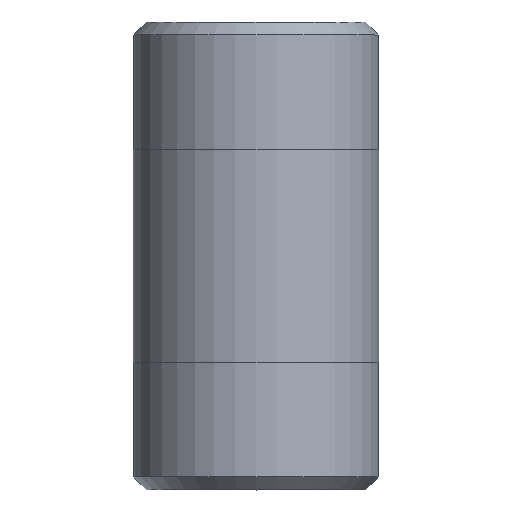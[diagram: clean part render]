
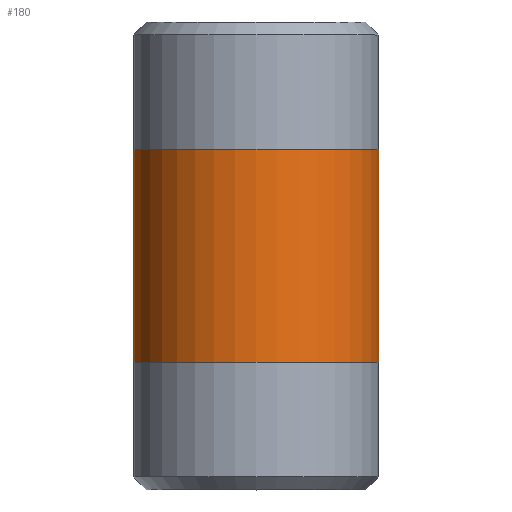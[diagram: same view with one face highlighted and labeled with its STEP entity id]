
A CAD part, top view. The second image highlights one B-rep face of the part: STEP entity #180.
In plain terms, the highlighted cylindrical face has radius 13.335 mm (diameter 26.67 mm), a full revolution.
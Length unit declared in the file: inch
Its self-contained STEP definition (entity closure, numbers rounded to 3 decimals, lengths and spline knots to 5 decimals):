
#25=CYLINDRICAL_SURFACE('',#220,0.525);
#34=FACE_OUTER_BOUND('',#47,.T.);
#47=EDGE_LOOP('',(#155,#156,#157,#158,#159,#160));
#55=LINE('',#338,#61);
#61=VECTOR('',#283,0.525);
#77=CIRCLE('',#218,0.525);
#78=CIRCLE('',#219,0.525);
#79=CIRCLE('',#221,0.525);
#80=CIRCLE('',#222,0.525);
#95=VERTEX_POINT('',#329);
#96=VERTEX_POINT('',#330);
#97=VERTEX_POINT('',#334);
#98=VERTEX_POINT('',#335);
#117=EDGE_CURVE('',#95,#96,#77,.T.);
#118=EDGE_CURVE('',#96,#95,#78,.T.);
#119=EDGE_CURVE('',#97,#98,#79,.T.);
#120=EDGE_CURVE('',#98,#97,#80,.T.);
#121=EDGE_CURVE('',#98,#96,#55,.T.);
#155=ORIENTED_EDGE('',*,*,#119,.F.);
#156=ORIENTED_EDGE('',*,*,#120,.F.);
#157=ORIENTED_EDGE('',*,*,#121,.T.);
#158=ORIENTED_EDGE('',*,*,#118,.T.);
#159=ORIENTED_EDGE('',*,*,#117,.T.);
#160=ORIENTED_EDGE('',*,*,#121,.F.);
#180=ADVANCED_FACE('',(#34),#25,.T.);
#218=AXIS2_PLACEMENT_3D('',#331,#273,#274);
#219=AXIS2_PLACEMENT_3D('',#332,#275,#276);
#220=AXIS2_PLACEMENT_3D('',#333,#277,#278);
#221=AXIS2_PLACEMENT_3D('',#336,#279,#280);
#222=AXIS2_PLACEMENT_3D('',#337,#281,#282);
#273=DIRECTION('center_axis',(0.,-1.,0.));
#274=DIRECTION('ref_axis',(1.,0.,0.));
#275=DIRECTION('center_axis',(0.,-1.,0.));
#276=DIRECTION('ref_axis',(1.,0.,0.));
#277=DIRECTION('center_axis',(0.,-1.,0.));
#278=DIRECTION('ref_axis',(0.,0.,-1.));
#279=DIRECTION('center_axis',(0.,-1.,0.));
#280=DIRECTION('ref_axis',(1.,0.,0.));
#281=DIRECTION('center_axis',(0.,-1.,0.));
#282=DIRECTION('ref_axis',(1.,0.,0.));
#283=DIRECTION('',(0.,1.,0.));
#329=CARTESIAN_POINT('',(0.,1.455,-0.525));
#330=CARTESIAN_POINT('',(0.,1.455,0.525));
#331=CARTESIAN_POINT('Origin',(0.,1.455,0.));
#332=CARTESIAN_POINT('Origin',(0.,1.455,0.));
#333=CARTESIAN_POINT('Origin',(0.,1.,0.));
#334=CARTESIAN_POINT('',(0.,0.545,-0.525));
#335=CARTESIAN_POINT('',(0.,0.545,0.525));
#336=CARTESIAN_POINT('Origin',(0.,0.545,0.));
#337=CARTESIAN_POINT('Origin',(0.,0.545,0.));
#338=CARTESIAN_POINT('',(0.,1.,0.525));
